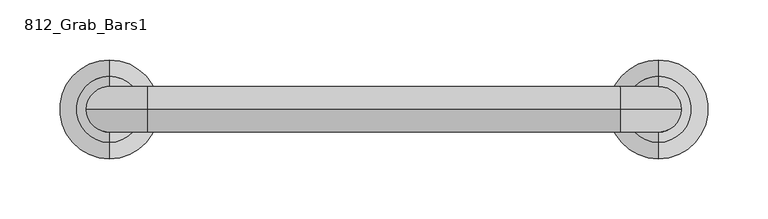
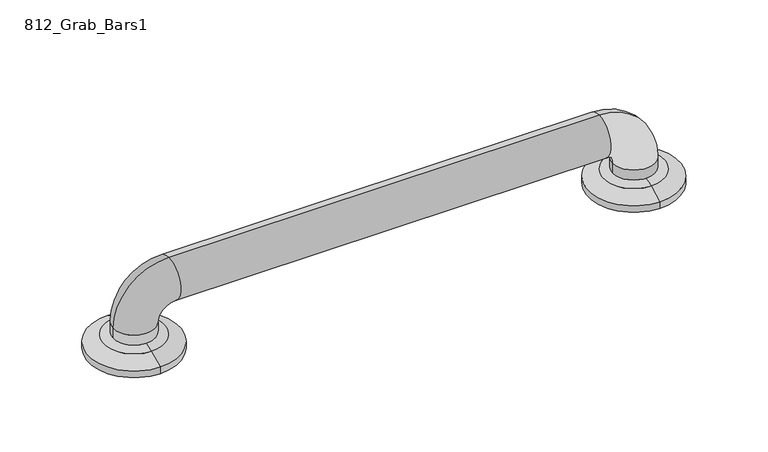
"""IFC4 building model written with IfcOpenShell, lengths in millimetres: proxy geometry, 812_Grab_Bars1 : 8122-001180."""

from ifc_helpers import new_model, si_unit, point, frame, origin, place, context, project, spatial, polyline, circle_curve, ellipse_curve, trimmed, source, transform, mapped, element, save
from ifc_brep_helpers import plane_surface, cylinder_surface, revolved_surface, advanced_brep


def proxy_812_grab_bars1_6de8e9aa(model_context):
    return source(origin(), model_context, "Body", "AdvancedBrep", [
        advanced_brep(
        [(-173.0375, 564.1630987, 13.1934507), (-173.0375, 577.85, 6.35), (-173.0375, 495.3, 6.35), (-173.0375, 508.9869013, 13.1934507), (-173.0375, 517.525, 15.7178454), (-192.0875, 536.575, 15.7178454), (-173.0375, 555.625, 15.7178454), (-153.9875, 536.575, 15.7178454), (-173.0375, 577.85, 0.0), (-173.0375, 555.625, 0.0), (-173.0375, 536.575, 0.0), (-173.0375, 517.525, 0.0), (-173.0375, 495.3, 0.0), (-192.0875, 536.575, 25.4), (-153.9875, 536.575, 25.4), (-141.2875, 536.575, 38.1), (-141.2875, 536.575, 76.2), (252.4125, 536.575, 38.1), (252.4125, 536.575, 76.2), (265.1125, 536.575, 25.4), (303.2125, 536.575, 25.4), (284.1625, 577.85, 0.0), (284.1625, 495.3, 0.0), (265.1125, 536.575, 15.7178454), (284.1625, 517.525, 15.7178454), (303.2125, 536.575, 15.7178454), (284.1625, 555.625, 15.7178454), (284.1625, 564.1630987, 13.1934507), (284.1625, 577.85, 6.35), (284.1625, 495.3, 6.35), (284.1625, 508.9869013, 13.1934507)],
        [
            (0, 1),
            (1, 2, circle_curve(frame((-173.0375, 536.575, 6.35), z_axis=(0.0, 0.0, 1.0), x_axis=(0.0, -1.0, 0.0)), 41.275)),
            (2, 3),
            (3, 0, circle_curve(frame((-173.0375, 536.575, 13.1934507), z_axis=(0.0, 0.0, -1.0), x_axis=(0.0, -1.0, 0.0)), 27.5880987)),
            (2, 1, circle_curve(frame((-173.0375, 536.575, 6.35), z_axis=(0.0, 0.0, 1.0), x_axis=(0.0, -1.0, 0.0)), 41.275)),
            (0, 3, circle_curve(frame((-173.0375, 536.575, 13.1934507), z_axis=(0.0, 0.0, -1.0), x_axis=(0.0, -1.0, 0.0)), 27.5880987)),
            (3, 4, circle_curve(frame((-173.0375, 520.3461266, -9.525), z_axis=(-1.0, 0.0, 0.0), x_axis=(0.0, 0.0, -1.0)), 25.4)),
            (4, 5, circle_curve(frame((-173.0375, 536.575, 15.7178454), z_axis=(0.0, 0.0, -1.0), x_axis=(0.0, -1.0, 0.0)), 19.05)),
            (5, 6, circle_curve(frame((-173.0375, 536.575, 15.7178454), z_axis=(0.0, 0.0, -1.0), x_axis=(0.0, -1.0, 0.0)), 19.05)),
            (6, 0, circle_curve(frame((-173.0375, 552.8038734, -9.525), z_axis=(-1.0, 0.0, 0.0), x_axis=(0.0, 0.0, -1.0)), 25.4)),
            (6, 7, circle_curve(frame((-173.0375, 536.575, 15.7178454), z_axis=(0.0, 0.0, -1.0), x_axis=(0.0, -1.0, 0.0)), 19.05)),
            (7, 4, circle_curve(frame((-173.0375, 536.575, 15.7178454), z_axis=(0.0, 0.0, -1.0), x_axis=(0.0, -1.0, 0.0)), 19.05)),
            (8, 9),
            (9, 10),
            (10, 11),
            (11, 12),
            (12, 8, circle_curve(frame((-173.0375, 536.575, 0.0), z_axis=(0.0, 0.0, -1.0), x_axis=(0.0, -1.0, 0.0)), 41.275)),
            (8, 12, circle_curve(frame((-173.0375, 536.575, 0.0), z_axis=(0.0, 0.0, -1.0), x_axis=(0.0, -1.0, 0.0)), 41.275)),
            (1, 8),
            (12, 2),
            (13, 5),
            (7, 14),
            (14, 13, circle_curve(frame((-173.0375, 536.575, 25.4), z_axis=(0.0, 0.0, -1.0), x_axis=(1.0, 0.0, 0.0)), 19.05)),
            (13, 14, circle_curve(frame((-173.0375, 536.575, 25.4), z_axis=(0.0, 0.0, -1.0), x_axis=(1.0, 0.0, 0.0)), 19.05)),
            (14, 15, circle_curve(frame((-141.2875, 536.575, 25.4), z_axis=(0.0, 1.0, 0.0), x_axis=(-1.0, 0.0, 0.0)), 12.7)),
            (15, 16, circle_curve(frame((-141.2875, 536.575, 57.15), z_axis=(-1.0, 0.0, 0.0), x_axis=(0.0, 0.0, -1.0)), 19.05)),
            (16, 13, circle_curve(frame((-141.2875, 536.575, 25.4), z_axis=(0.0, -1.0, 0.0), x_axis=(-1.0, 0.0, 0.0)), 50.8)),
            (16, 15, circle_curve(frame((-141.2875, 536.575, 57.15), z_axis=(-1.0, 0.0, 0.0), x_axis=(0.0, 0.0, -1.0)), 19.05)),
            (15, 17),
            (17, 18, circle_curve(frame((252.4125, 536.575, 57.15), z_axis=(-1.0, 0.0, 0.0), x_axis=(0.0, 0.0, -1.0)), 19.05)),
            (18, 16),
            (18, 17, circle_curve(frame((252.4125, 536.575, 57.15), z_axis=(-1.0, 0.0, 0.0), x_axis=(0.0, 0.0, -1.0)), 19.05)),
            (17, 19, circle_curve(frame((252.4125, 536.575, 25.4), z_axis=(0.0, 1.0, 0.0), x_axis=(0.0, 0.0, 1.0)), 12.7)),
            (19, 20, circle_curve(frame((284.1625, 536.575, 25.4), z_axis=(0.0, 0.0, 1.0), x_axis=(-1.0, 0.0, 0.0)), 19.05)),
            (20, 18, circle_curve(frame((252.4125, 536.575, 25.4), z_axis=(0.0, -1.0, 0.0), x_axis=(0.0, 0.0, 1.0)), 50.8)),
            (20, 19, circle_curve(frame((284.1625, 536.575, 25.4), z_axis=(0.0, 0.0, 1.0), x_axis=(-1.0, 0.0, 0.0)), 19.05)),
            (21, 22, circle_curve(frame((284.1625, 536.575, 0.0), z_axis=(0.0, 0.0, -1.0), x_axis=(0.0, -1.0, 0.0)), 41.275)),
            (22, 21, circle_curve(frame((284.1625, 536.575, 0.0), z_axis=(0.0, 0.0, -1.0), x_axis=(0.0, -1.0, 0.0)), 41.275)),
            (19, 23),
            (23, 24, circle_curve(frame((284.1625, 536.575, 15.7178454), z_axis=(0.0, 0.0, 1.0), x_axis=(-1.0, 0.0, 0.0)), 19.05)),
            (24, 25, circle_curve(frame((284.1625, 536.575, 15.7178454), z_axis=(0.0, 0.0, 1.0), x_axis=(-1.0, 0.0, 0.0)), 19.05)),
            (25, 20),
            (25, 26, circle_curve(frame((284.1625, 536.575, 15.7178454), z_axis=(0.0, 0.0, 1.0), x_axis=(-1.0, 0.0, 0.0)), 19.05)),
            (26, 23, circle_curve(frame((284.1625, 536.575, 15.7178454), z_axis=(0.0, 0.0, 1.0), x_axis=(-1.0, 0.0, 0.0)), 19.05)),
            (27, 28),
            (28, 29, circle_curve(frame((284.1625, 536.575, 6.35), z_axis=(0.0, 0.0, 1.0), x_axis=(0.0, -1.0, 0.0)), 41.275)),
            (29, 30),
            (30, 27, circle_curve(frame((284.1625, 536.575, 13.1934507), z_axis=(0.0, 0.0, -1.0), x_axis=(0.0, -1.0, 0.0)), 27.5880987)),
            (29, 28, circle_curve(frame((284.1625, 536.575, 6.35), z_axis=(0.0, 0.0, 1.0), x_axis=(0.0, -1.0, 0.0)), 41.275)),
            (27, 30, circle_curve(frame((284.1625, 536.575, 13.1934507), z_axis=(0.0, 0.0, -1.0), x_axis=(0.0, -1.0, 0.0)), 27.5880987)),
            (30, 24, circle_curve(frame((284.1625, 520.3461266, -9.525), z_axis=(-1.0, 0.0, 0.0), x_axis=(0.0, 0.0, -1.0)), 25.4)),
            (26, 27, circle_curve(frame((284.1625, 552.8038734, -9.525), z_axis=(-1.0, 0.0, 0.0), x_axis=(0.0, 0.0, -1.0)), 25.4)),
            (28, 21),
            (22, 29),
        ],
        [
            revolved_surface(polyline([(-173.0375, 495.3, 6.35), (-173.0375, 508.9869013, 13.1934507)]), (-173.0375, 536.575, 31.75), (0.0, 0.0, 1.0)),
            revolved_surface(trimmed(ellipse_curve(frame((-173.0375, 520.3461266, -9.525), z_axis=(-1.0, 0.0, 0.0), x_axis=(0.0, 0.0, -1.0)), 25.4, 25.4), [point((-173.0375, 508.9869013, 13.1934507))], [point((-173.0375, 520.3461266, 15.875))], True, "CARTESIAN"), (-173.0375, 536.575, 31.75), (0.0, 0.0, 1.0)),
            plane_surface(frame((-173.0375, 536.575, 0.0), z_axis=(0.0, 0.0, -1.0), x_axis=(0.0, -1.0, 0.0))),
            cylinder_surface(frame((-173.0375, 536.575, 31.75), z_axis=(0.0, 0.0, 1.0), x_axis=(0.0, -1.0, 0.0)), 41.275),
            cylinder_surface(frame((-173.0375, 536.575, 0.0), z_axis=(0.0, 0.0, -1.0), x_axis=(1.0, 0.0, 0.0)), 19.05),
            revolved_surface(trimmed(ellipse_curve(frame((-173.0375, 536.575, 25.4), z_axis=(0.0, 0.0, 1.0), x_axis=(1.0, 0.0, 0.0)), 19.05, 19.05), [point((-192.0875, 536.575, 25.4))], [point((-153.9875, 536.575, 25.4))], True, "CARTESIAN"), (-141.2875, 536.575, 25.4), (0.0, -1.0, 0.0)),
            revolved_surface(trimmed(ellipse_curve(frame((-173.0375, 536.575, 25.4), z_axis=(0.0, 0.0, 1.0), x_axis=(1.0, 0.0, 0.0)), 19.05, 19.05), [point((-153.9875, 536.575, 25.4))], [point((-192.0875, 536.575, 25.4))], True, "CARTESIAN"), (-141.2875, 536.575, 25.4), (0.0, -1.0, 0.0)),
            cylinder_surface(frame((-141.2875, 536.575, 57.15), z_axis=(-1.0, 0.0, 0.0), x_axis=(0.0, 0.0, -1.0)), 19.05),
            revolved_surface(trimmed(ellipse_curve(frame((252.4125, 536.575, 57.15), z_axis=(1.0, 0.0, 0.0), x_axis=(0.0, 0.0, -1.0)), 19.05, 19.05), [point((252.4125, 536.575, 76.2))], [point((252.4125, 536.575, 38.1))], True, "CARTESIAN"), (252.4125, 536.575, 25.4), (0.0, -1.0, 0.0)),
            revolved_surface(trimmed(ellipse_curve(frame((252.4125, 536.575, 57.15), z_axis=(1.0, 0.0, 0.0), x_axis=(0.0, 0.0, -1.0)), 19.05, 19.05), [point((252.4125, 536.575, 38.1))], [point((252.4125, 536.575, 76.2))], True, "CARTESIAN"), (252.4125, 536.575, 25.4), (0.0, -1.0, 0.0)),
            plane_surface(frame((284.1625, 536.575, 0.0), z_axis=(0.0, 0.0, -1.0), x_axis=(0.0, -1.0, 0.0))),
            cylinder_surface(frame((284.1625, 536.575, 25.4), z_axis=(0.0, 0.0, 1.0), x_axis=(-1.0, 0.0, 0.0)), 19.05),
            revolved_surface(polyline([(284.1625, 495.3, 6.35), (284.1625, 508.9869013, 13.1934507)]), (284.1625, 536.575, -29.0642853), (0.0, 0.0, 1.0)),
            revolved_surface(trimmed(ellipse_curve(frame((284.1625, 520.3461266, -9.525), z_axis=(-1.0, 0.0, 0.0), x_axis=(0.0, 0.0, -1.0)), 25.4, 25.4), [point((284.1625, 508.9869013, 13.1934507))], [point((284.1625, 520.3461266, 15.875))], True, "CARTESIAN"), (284.1625, 536.575, -29.0642853), (0.0, 0.0, 1.0)),
            cylinder_surface(frame((284.1625, 536.575, -29.0642853), z_axis=(0.0, 0.0, 1.0), x_axis=(0.0, -1.0, 0.0)), 41.275),
        ],
        [
            (0, [[1, 2, 3, 4]]),
            (0, [[5, -1, 6, -3]]),
            (1, [[7, 8, 9, 10, -4]]),
            (1, [[-10, 11, 12, -7, -6]]),
            (2, [[13, 14, 15, 16, 17]]),
            (2, [[-16, -15, -14, -13, 18]]),
            (3, [[19, -17, 20, -2]]),
            (3, [[-20, -18, -19, -5]]),
            (4, [[21, -8, -12, 22, 23]]),
            (4, [[-22, -11, -9, -21, 24]]),
            (5, [[25, 26, 27, -23]]),
            (6, [[-27, 28, -25, -24]]),
            (7, [[29, 30, 31, -26]]),
            (7, [[-31, 32, -29, -28]]),
            (8, [[33, 34, 35, -30]]),
            (9, [[-35, 36, -33, -32]]),
            (10, [[37, 38]]),
            (11, [[39, 40, 41, 42, -34]]),
            (11, [[-42, 43, 44, -39, -36]]),
            (12, [[45, 46, 47, 48]]),
            (12, [[49, -45, 50, -47]]),
            (13, [[51, -40, -44, 52, -48]]),
            (13, [[-52, -43, -41, -51, -50]]),
            (14, [[53, -38, 54, -46]]),
            (14, [[-54, -37, -53, -49]]),
        ],
    ),
    ])


if __name__ == "__main__":
    model = new_model("IFC4")
    model_context = context("Model", 3, world=origin())
    ifc_project = project(units=[si_unit("LENGTHUNIT", "METRE", prefix="MILLI")], contexts=[model_context])
    site = spatial("IfcSite", under=ifc_project)
    building = spatial("IfcBuilding", under=site)
    placement = place(None, origin())
    proxy_812_grab_bars1_shape = proxy_812_grab_bars1_6de8e9aa(model_context)
    element("IfcBuildingElementProxy", 1, Name="812_Grab_Bars1 : 8122-001180", ObjectType="812_Grab_Bars1 : 8122-001180", at=placement, inside=building, context=model_context, shape_type="MappedRepresentation", body=[
        mapped(proxy_812_grab_bars1_shape, transform((0.0, 0.0, 0.0), x_axis=(1.0, 0.0, 0.0), y_axis=(0.0, 1.0, 0.0), z_axis=(0.0, 0.0, 1.0))),
    ])
    save(model, "model.ifc")
